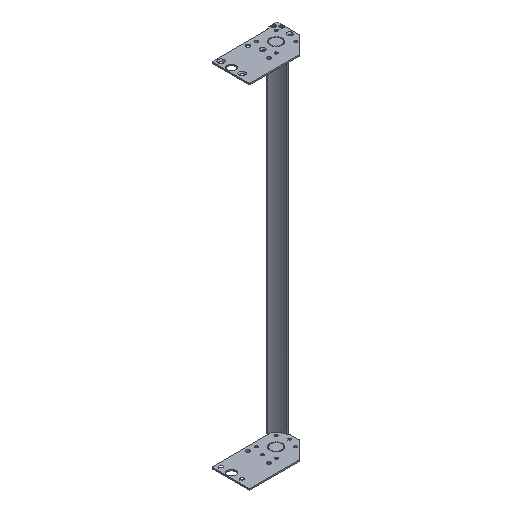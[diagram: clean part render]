
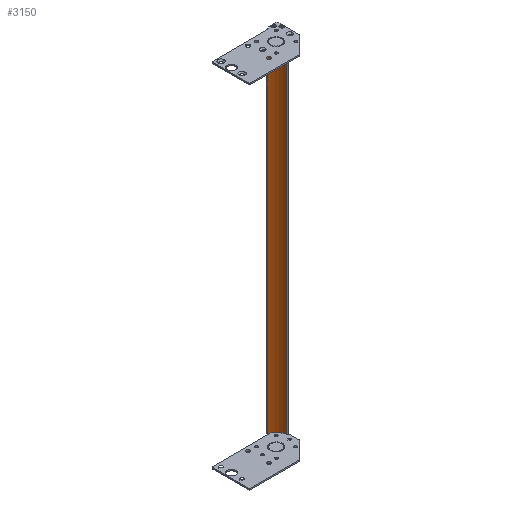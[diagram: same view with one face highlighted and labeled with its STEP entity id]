
A CAD part, isometric view. The second image highlights one B-rep face of the part: STEP entity #3150.
In plain terms, the highlighted cylindrical face has radius 40.64 mm (diameter 81.28 mm), a partial arc.
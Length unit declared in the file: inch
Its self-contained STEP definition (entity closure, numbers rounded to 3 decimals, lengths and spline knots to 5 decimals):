
#2808=CARTESIAN_POINT('',(-1.63,-1.52,-16.118));
#2809=DIRECTION('',(0.,0.,1.));
#2810=DIRECTION('',(0.946,0.325,0.));
#2811=AXIS2_PLACEMENT_3D('',#2808,#2809,#2810);
#2859=DIRECTION('',(0.,0.,1.));
#2860=VECTOR('',#2859,32.236);
#2861=CARTESIAN_POINT('',(-0.98126,-0.05742,-16.118));
#2862=LINE('',#2861,#2860);
#2878=CARTESIAN_POINT('',(-1.63,-1.52,16.118));
#2879=DIRECTION('',(0.,0.,-1.));
#2880=DIRECTION('',(0.405,0.914,0.));
#2881=AXIS2_PLACEMENT_3D('',#2878,#2879,#2880);
#2928=DIRECTION('',(0.,0.,1.));
#2929=VECTOR('',#2928,32.236);
#2930=CARTESIAN_POINT('',(-0.11675,-1.00032,-16.118));
#2931=LINE('',#2930,#2929);
#2968=CARTESIAN_POINT('',(-0.11675,-1.00032,-16.118));
#2969=CARTESIAN_POINT('',(-0.11675,-1.00032,16.118));
#2970=VERTEX_POINT('',#2968);
#2971=VERTEX_POINT('',#2969);
#2978=CARTESIAN_POINT('',(-0.98126,-0.05742,-16.118));
#2979=VERTEX_POINT('',#2978);
#2986=CARTESIAN_POINT('',(-0.98126,-0.05742,16.118));
#2987=VERTEX_POINT('',#2986);
#3139=CARTESIAN_POINT('',(-1.63,-1.52,16.118));
#3140=DIRECTION('',(0.,0.,-1.));
#3141=DIRECTION('',(-1.,0.,0.));
#3142=AXIS2_PLACEMENT_3D('',#3139,#3140,#3141);
#3143=CYLINDRICAL_SURFACE('',#3142,1.6);
#3144=ORIENTED_EDGE('',*,*,#3001,.T.);
#3145=ORIENTED_EDGE('',*,*,#3048,.T.);
#3146=ORIENTED_EDGE('',*,*,#3069,.T.);
#3147=ORIENTED_EDGE('',*,*,#3132,.F.);
#3148=EDGE_LOOP('',(#3144,#3145,#3146,#3147));
#3149=FACE_OUTER_BOUND('',#3148,.F.);
#2812=CIRCLE('',#2811,1.6);
#2882=CIRCLE('',#2881,1.6);
#3001=EDGE_CURVE('',#2970,#2979,#2812,.T.);
#3048=EDGE_CURVE('',#2979,#2987,#2862,.T.);
#3069=EDGE_CURVE('',#2987,#2971,#2882,.T.);
#3132=EDGE_CURVE('',#2970,#2971,#2931,.T.);
#3150=ADVANCED_FACE('',(#3149),#3143,.F.);
